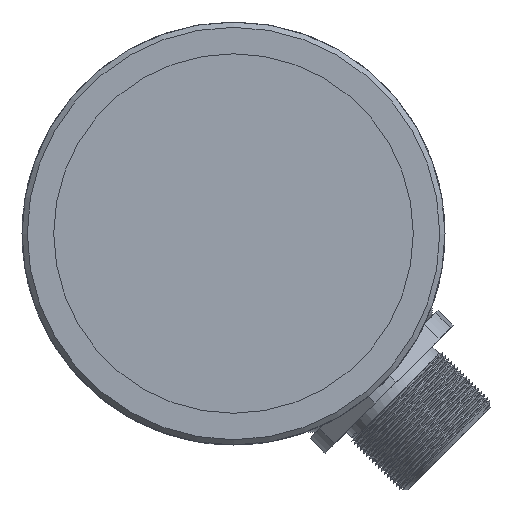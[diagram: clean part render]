
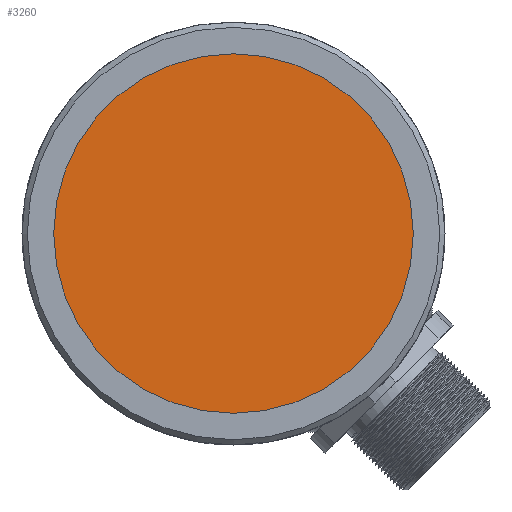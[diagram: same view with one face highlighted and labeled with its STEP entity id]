
A CAD part, left-side view. The second image highlights one B-rep face of the part: STEP entity #3260.
In plain terms, the highlighted planar face has unit normal (-1, 0, 0).
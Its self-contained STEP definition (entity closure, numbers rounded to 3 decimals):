
#1060=PLANE('',#3466);
#1182=CIRCLE('',#3464,17.);
#1279=EDGE_CURVE('',#2763,#2763,#1182,.T.);
#1703=ORIENTED_EDGE('',*,*,#1279,.T.);
#2517=EDGE_LOOP('',(#1703));
#2763=VERTEX_POINT('',#3715);
#3025=FACE_BOUND('',#2517,.T.);
#3260=ADVANCED_FACE('',(#3025),#1060,.T.);
#3464=AXIS2_PLACEMENT_3D('',#3714,#18636,#18637);
#3466=AXIS2_PLACEMENT_3D('',#3718,#18640,$);
#3714=CARTESIAN_POINT('',(1.,0.,0.));
#3715=CARTESIAN_POINT('',(1.,0.,17.));
#3718=CARTESIAN_POINT('',(1.,0.,0.));
#18636=DIRECTION('',(-1.,0.,0.));
#18637=DIRECTION('',(0.,0.,17.));
#18640=DIRECTION('',(-1.,0.,0.));
